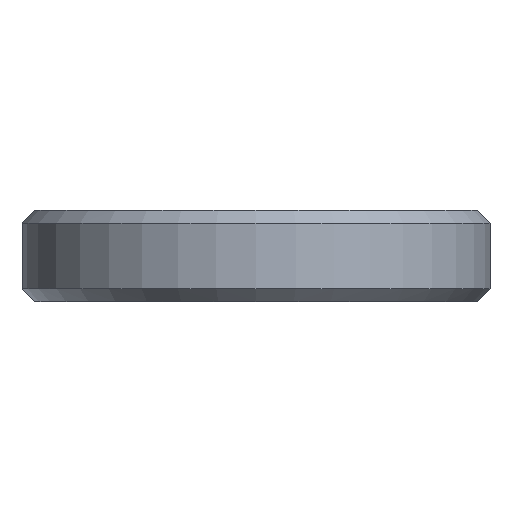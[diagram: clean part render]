
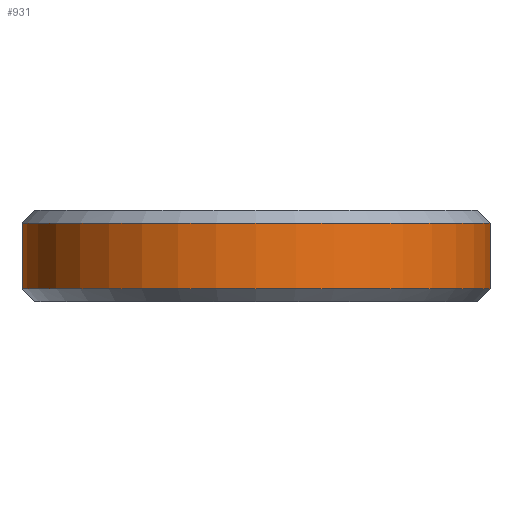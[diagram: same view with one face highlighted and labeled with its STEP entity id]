
A CAD part, front view. The second image highlights one B-rep face of the part: STEP entity #931.
In plain terms, the highlighted cylindrical face has radius 9 mm (diameter 18 mm), a partial arc.
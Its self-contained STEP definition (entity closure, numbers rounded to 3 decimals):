
#482=CARTESIAN_POINT('Vertex',(-0.522,-33.517,0.5)) ;
#552=CARTESIAN_POINT('Vertex',(-10.522,-33.517,0.5)) ;
#578=CARTESIAN_POINT('Axis2P3D Location',(-5.522,-41.,0.5)) ;
#893=CARTESIAN_POINT('Vertex',(-10.522,-33.517,3.)) ;
#896=CARTESIAN_POINT('Line Origine',(-10.522,-33.517,1.75)) ;
#908=CARTESIAN_POINT('Axis2P3D Location',(-5.522,-41.,1.75)) ;
#913=CARTESIAN_POINT('Line Origine',(-0.522,-33.517,1.75)) ;
#917=CARTESIAN_POINT('Vertex',(-0.522,-33.517,3.)) ;
#920=CARTESIAN_POINT('Axis2P3D Location',(-5.522,-41.,3.)) ;
#579=DIRECTION('Axis2P3D Direction',(0.,0.,1.)) ;
#897=DIRECTION('Vector Direction',(0.,0.,1.)) ;
#909=DIRECTION('Axis2P3D Direction',(0.,0.,1.)) ;
#910=DIRECTION('Axis2P3D XDirection',(-0.556,0.831,0.)) ;
#914=DIRECTION('Vector Direction',(0.,0.,1.)) ;
#921=DIRECTION('Axis2P3D Direction',(0.,0.,1.)) ;
#580=AXIS2_PLACEMENT_3D('Circle Axis2P3D',#578,#579,$) ;
#911=AXIS2_PLACEMENT_3D('Cylinder Axis2P3D',#908,#909,#910) ;
#922=AXIS2_PLACEMENT_3D('Circle Axis2P3D',#920,#921,$) ;
#926=ORIENTED_EDGE('',*,*,#900,.F.) ;
#927=ORIENTED_EDGE('',*,*,#582,.T.) ;
#928=ORIENTED_EDGE('',*,*,#919,.T.) ;
#929=ORIENTED_EDGE('',*,*,#924,.F.) ;
#898=VECTOR('Line Direction',#897,1.) ;
#915=VECTOR('Line Direction',#914,1.) ;
#931=ADVANCED_FACE('PartBody',(#930),#912,.T.) ;
#581=CIRCLE('generated circle',#580,9.) ;
#923=CIRCLE('generated circle',#922,9.) ;
#912=CYLINDRICAL_SURFACE('generated cylinder',#911,9.) ;
#582=EDGE_CURVE('',#553,#483,#581,.T.) ;
#900=EDGE_CURVE('',#553,#894,#899,.T.) ;
#919=EDGE_CURVE('',#483,#918,#916,.T.) ;
#924=EDGE_CURVE('',#894,#918,#923,.T.) ;
#925=EDGE_LOOP('',(#926,#927,#928,#929)) ;
#930=FACE_OUTER_BOUND('',#925,.T.) ;
#899=LINE('Line',#896,#898) ;
#916=LINE('Line',#913,#915) ;
#483=VERTEX_POINT('',#482) ;
#553=VERTEX_POINT('',#552) ;
#894=VERTEX_POINT('',#893) ;
#918=VERTEX_POINT('',#917) ;
